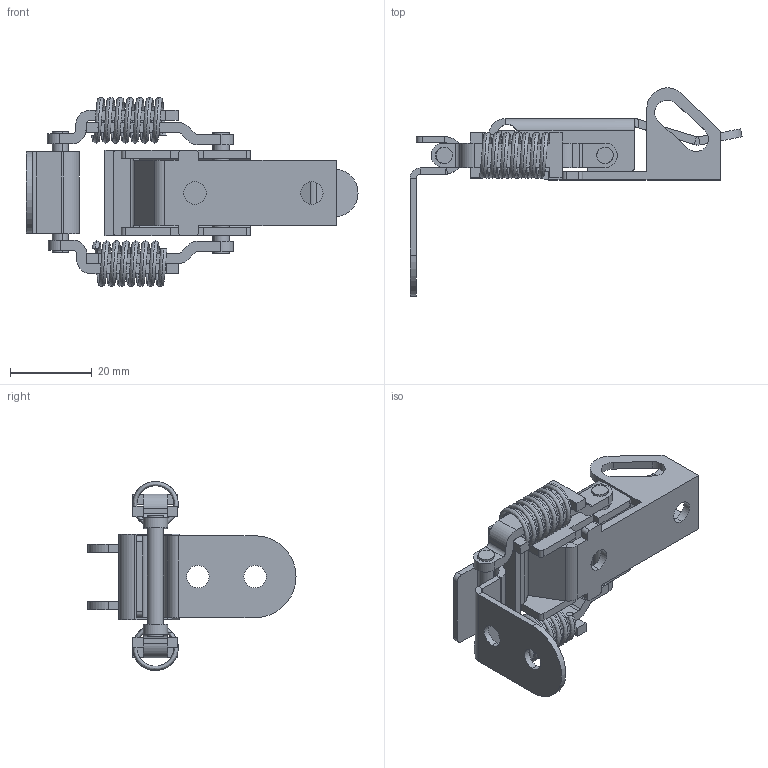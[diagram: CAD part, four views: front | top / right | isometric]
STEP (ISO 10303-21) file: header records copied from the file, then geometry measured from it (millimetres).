
FILE_DESCRIPTION (( 'STEP AP214' ), '1' );
FILE_NAME ('TSL-322P-C.STEP', '2015-09-02T02:21:43', ( '' ), ( '' ), 'SwSTEP 2.0', 'SolidWorks 2010', '' );
FILE_SCHEMA (( 'AUTOMOTIVE_DESIGN' ));
Length unit declared in the file: millimetre
Products named in the file (7): TSL-322P-C; 配件三; 配件二; 配件一; 吊勾; 固定銷; 配件四
Assembly tree (9 placements, depth 2):
  TSL-322P-C
    固定銷  x2
    配件三  x2
    配件二
    配件一
    配件四  x2
    吊勾
Bounding box: 81.19 x 50.87 x 46.2 mm (x, y, z)
Volume: 11162 mm3; surface area: 15113.5 mm2
Topology: 11 solids, 11 shells, 265 faces, 667 edges, 424 vertices
Faces by surface type: plane 162, cylinder 99, bspline 4
Entity records: 8060 total; most frequent: CARTESIAN_POINT 2432, DIRECTION 1141, ORIENTED_EDGE 1094, EDGE_CURVE 547, AXIS2_PLACEMENT_3D 387, VECTOR 367, LINE 367, VERTEX_POINT 344
